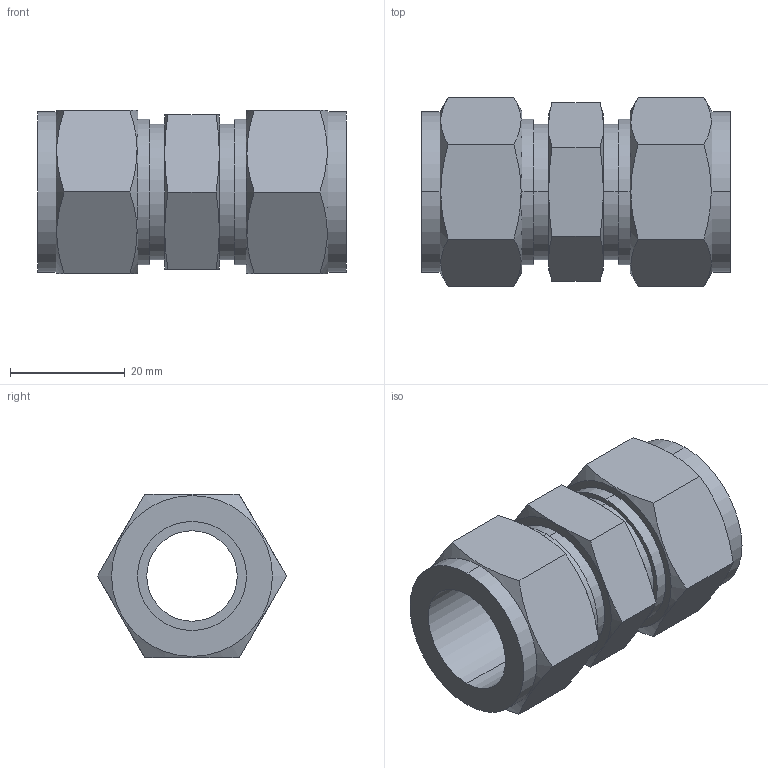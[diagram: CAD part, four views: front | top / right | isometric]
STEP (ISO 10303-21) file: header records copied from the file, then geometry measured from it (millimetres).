
FILE_DESCRIPTION (( 'STEP AP203' ), '1' );
FILE_NAME ('DUA12 SS.STEP', '2009-09-08T10:22:02', ( ' ' ), ( '' ), 'SwSTEP 2.0', 'SolidWorks 2008', '' );
FILE_SCHEMA (( 'CONFIG_CONTROL_DESIGN' ));
Length unit declared in the file: millimetre
Products named in the file (1): DUA12 SS
Bounding box: 53.9 x 33 x 28.58 mm (x, y, z)
Volume: 19506.4 mm3; surface area: 9917.8 mm2
Topology: 1 solids, 1 shells, 66 faces, 152 edges, 96 vertices
Faces by surface type: plane 28, cone 20, cylinder 18
Entity records: 2221 total; most frequent: CARTESIAN_POINT 707, ORIENTED_EDGE 304, DIRECTION 282, EDGE_CURVE 152, AXIS2_PLACEMENT_3D 119, VERTEX_POINT 96, EDGE_LOOP 76, ADVANCED_FACE 66
